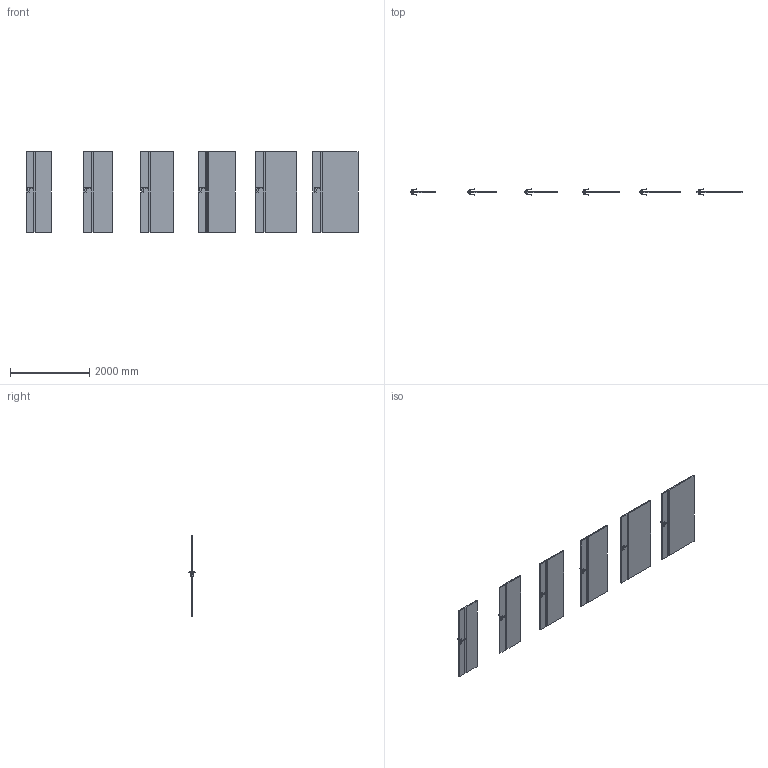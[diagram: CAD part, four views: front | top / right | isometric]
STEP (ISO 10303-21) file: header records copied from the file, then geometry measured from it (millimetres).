
FILE_DESCRIPTION(/* description */ (''),/* implementation_level */ '2;1');
FILE_NAME(/* name */ '049671_B_2-Skrzydło FOCUS model 5.A_ polska norma _PN__ odwrotna przylga..stp',/* time_stamp */ '2024-02-16T13:45:32+01:00',/* author */ (''),/* organization */ (''),/* preprocessor_version */ 'ST-DEVELOPER v16',/* originating_system */ 'SIEMENS PLM Software NX 11.0',/* authorisation */ '');
FILE_SCHEMA (('AUTOMOTIVE_DESIGN { 1 0 10303 214 3 1 1 1 }'));
Length unit declared in the file: millimetre
Products named in the file (1): bkni4C70E1ECxwk0
Bounding box: 8389 x 153.27 x 2027 mm (x, y, z)
Volume: 421784356.7 mm3; surface area: 23351206.2 mm2
Topology: 30 solids, 30 shells, 1260 faces, 3072 edges, 1752 vertices
Faces by surface type: plane 540, cylinder 360, bspline 192, sphere 168
Entity records: 42232 total; most frequent: CARTESIAN_POINT 14341, ORIENTED_EDGE 5808, DIRECTION 5594, EDGE_CURVE 2904, AXIS2_PLACEMENT_3D 1981, VERTEX_POINT 1752, LINE 1632, VECTOR 1632
